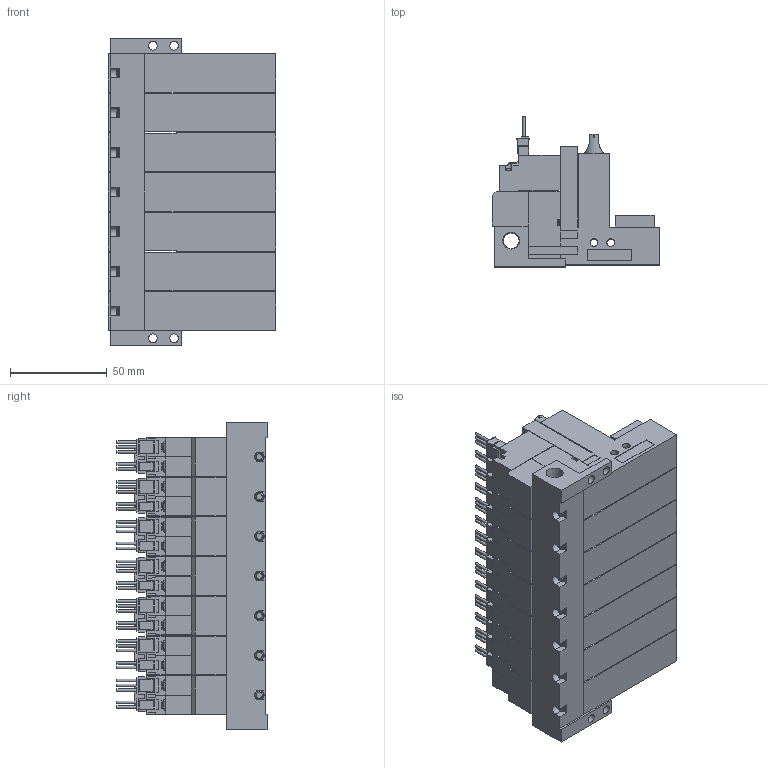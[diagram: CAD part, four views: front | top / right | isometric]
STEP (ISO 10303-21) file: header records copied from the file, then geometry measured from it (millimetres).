
FILE_DESCRIPTION(('STEP AP203'),'1');
FILE_NAME('ZL5WLR707.stp','2025-02-25T02:05:54',(' '),(' '),'Spatial InterOp 3D',' ',' ');
FILE_SCHEMA(('CONFIG_CONTROL_DESIGN'));
Length unit declared in the file: millimetre
Products named in the file (5): BMC22M※※※※ZL5WLR707; Solenoid valve W; Pressure sensor ZL; Unit L; Base MR70R
Assembly tree (22 placements, depth 2):
  BMC22M※※※※ZL5WLR707
    Solenoid valve W  x7
    Pressure sensor ZL  x7
    Unit L  x7
    Base MR70R
Bounding box: 86.6 x 77.45 x 159 mm (x, y, z)
Volume: 542433.1 mm3; surface area: 154129.7 mm2
Topology: 22 solids, 22 shells, 2310 faces, 6275 edges, 4142 vertices
Faces by surface type: plane 1988, cylinder 250, cone 51, torus 21
Full cylindrical faces by diameter (mm): 1.4 x35, 2.5 x7, 3 x28, 3.5 x28, 3.6 x7, 4 x14, 4.134 x7, 4.5 x4, 5.2 x7, 6 x7, 6.6 x7, 8.279 x1
Entity records: 13824 total; most frequent: CARTESIAN_POINT 2682, DIRECTION 2203, ORIENTED_EDGE 2114, EDGE_CURVE 1057, LINE 835, VECTOR 835, VERTEX_POINT 748, AXIS2_PLACEMENT_3D 684
